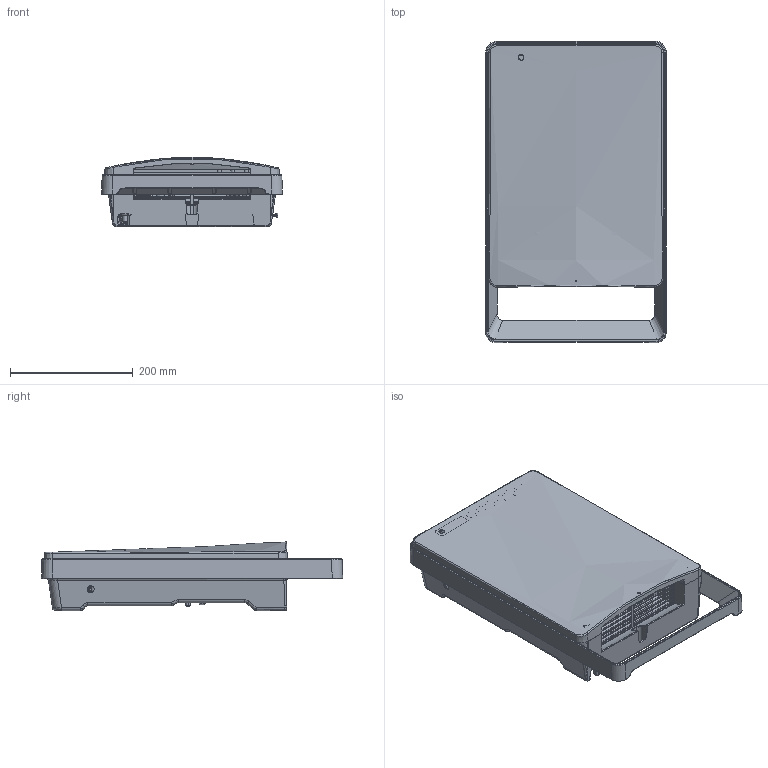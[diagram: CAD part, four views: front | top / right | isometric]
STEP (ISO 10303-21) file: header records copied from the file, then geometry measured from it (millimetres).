
FILE_DESCRIPTION(('FreeCAD Model'),'2;1');
FILE_NAME('Open CASCADE Shape Model','2026-06-11T08:35:11',(''),(''), 'Open CASCADE STEP processor 7.8','FreeCAD','Unknown');
FILE_SCHEMA(('AUTOMOTIVE_DESIGN { 1 0 10303 214 1 1 1 1 }'));
Length unit declared in the file: millimetre
Products named in the file (8): Unnamed; SLI_RETRO; SLI_GUIDA-FILTRO; SLI_CORNICE; SLI_GRIGLIA; SLI_FRONTALE; SLI_GR-FILTRO_ASM; SLI_FILTRO-CORPO
Assembly tree (7 placements, depth 3):
  Unnamed
    SLI_RETRO
    SLI_GUIDA-FILTRO
    SLI_CORNICE
    SLI_GRIGLIA
    SLI_FRONTALE
    SLI_GR-FILTRO_ASM
      SLI_FILTRO-CORPO
Bounding box: 294.38 x 490.18 x 112.54 mm (x, y, z)
Volume: 1057443.2 mm3; surface area: 1023378.6 mm2
Topology: 6 solids, 6 shells, 4761 faces, 12750 edges, 8002 vertices
Faces by surface type: plane 2259, cylinder 1072, bspline 787, cone 357, torus 208, revolution 34, sphere 28, extrusion 16
Entity records: 199192 total; most frequent: CARTESIAN_POINT 87900, ORIENTED_EDGE 25498, DIRECTION 19682, EDGE_CURVE 12749, VERTEX_POINT 8002, VECTOR 7218, LINE 7202, AXIS2_PLACEMENT_3D 6215
